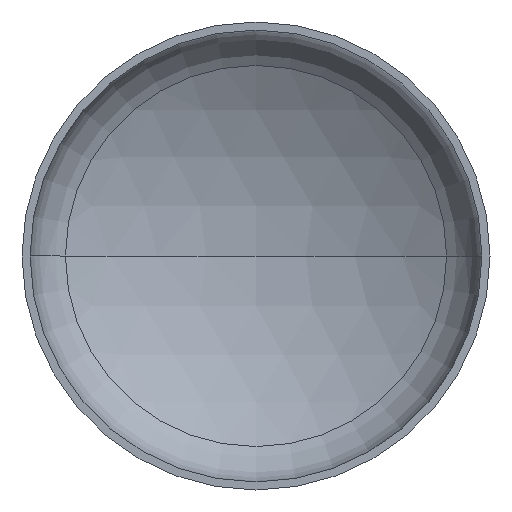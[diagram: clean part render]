
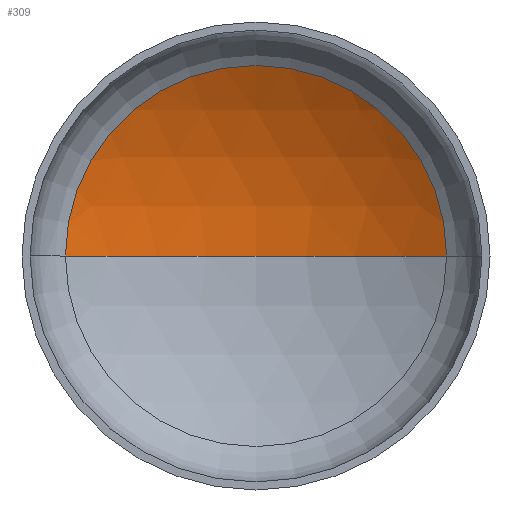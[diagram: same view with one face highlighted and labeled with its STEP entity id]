
A CAD part, front view. The second image highlights one B-rep face of the part: STEP entity #309.
In plain terms, the highlighted spherical face has radius 2080 mm.
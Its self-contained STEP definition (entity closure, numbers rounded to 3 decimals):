
#3 = AXIS2_PLACEMENT_3D ( 'NONE', #155, #343, #197 ) ;
#5 = CARTESIAN_POINT ( 'NONE',  ( -1058.571, 484.324, 0. ) ) ;
#11 = AXIS2_PLACEMENT_3D ( 'NONE', #270, #30, #286 ) ;
#22 = AXIS2_PLACEMENT_3D ( 'NONE', #248, #228, #274 ) ;
#30 = DIRECTION ( 'NONE',  ( 0., 0., -1. ) ) ;
#40 = CARTESIAN_POINT ( 'NONE',  ( 0., 484.324, 0. ) ) ;
#42 = VERTEX_POINT ( 'NONE', #48 ) ;
#44 = AXIS2_PLACEMENT_3D ( 'NONE', #40, #238, #236 ) ;
#48 = CARTESIAN_POINT ( 'NONE',  ( 1058.571, 484.324, 0. ) ) ;
#56 = ORIENTED_EDGE ( 'NONE', *, *, #355, .T. ) ;
#63 = ORIENTED_EDGE ( 'NONE', *, *, #356, .F. ) ;
#102 = EDGE_CURVE ( 'NONE', #42, #201, #160, .T. ) ;
#118 = FACE_OUTER_BOUND ( 'NONE', #140, .T. ) ;
#140 = EDGE_LOOP ( 'NONE', ( #63, #56, #282 ) ) ;
#155 = CARTESIAN_POINT ( 'NONE',  ( 0., -1306.159, 0. ) ) ;
#160 = CIRCLE ( 'NONE', #44, 1058.571 ) ;
#191 = VERTEX_POINT ( 'NONE', #231 ) ;
#197 = DIRECTION ( 'NONE',  ( 1., 0., 0. ) ) ;
#201 = VERTEX_POINT ( 'NONE', #5 ) ;
#206 = CIRCLE ( 'NONE', #11, 2080. ) ;
#228 = DIRECTION ( 'NONE',  ( 0., 0., -1. ) ) ;
#231 = CARTESIAN_POINT ( 'NONE',  ( 0., 773.841, 0. ) ) ;
#236 = DIRECTION ( 'NONE',  ( 1., 0., 0. ) ) ;
#238 = DIRECTION ( 'NONE',  ( 0., -1., 0. ) ) ;
#248 = CARTESIAN_POINT ( 'NONE',  ( 0., -1306.159, 0. ) ) ;
#270 = CARTESIAN_POINT ( 'NONE',  ( 0., -1306.159, 0. ) ) ;
#274 = DIRECTION ( 'NONE',  ( -1., 0., 0. ) ) ;
#282 = ORIENTED_EDGE ( 'NONE', *, *, #102, .T. ) ;
#286 = DIRECTION ( 'NONE',  ( -1., 0., 0. ) ) ;
#309 = ADVANCED_FACE ( 'NONE', ( #118 ), #399, .F. ) ;
#343 = DIRECTION ( 'NONE',  ( 0., 0., 1. ) ) ;
#355 = EDGE_CURVE ( 'NONE', #191, #42, #206, .T. ) ;
#356 = EDGE_CURVE ( 'NONE', #191, #201, #380, .T. ) ;
#380 = CIRCLE ( 'NONE', #3, 2080. ) ;
#399 = SPHERICAL_SURFACE ( 'NONE', #22, 2080. ) ;
